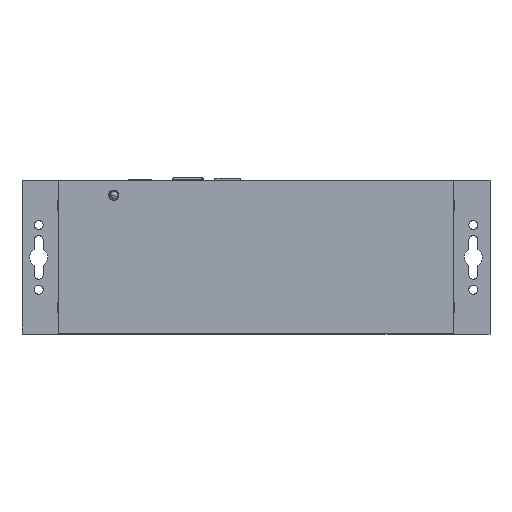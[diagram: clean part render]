
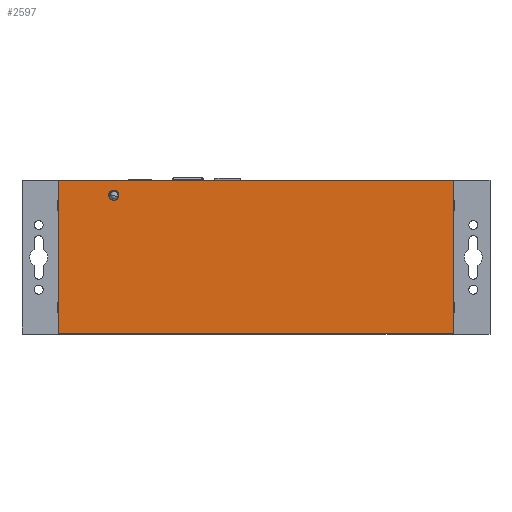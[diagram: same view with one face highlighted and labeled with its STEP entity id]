
A CAD part, top view. The second image highlights one B-rep face of the part: STEP entity #2597.
In plain terms, the highlighted planar face has unit normal (0, 0, 1).
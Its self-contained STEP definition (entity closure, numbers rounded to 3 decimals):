
#800 = VERTEX_POINT('',#801);
#801 = CARTESIAN_POINT('',(13.95,0.,22.9));
#807 = EDGE_CURVE('',#800,#808,#810,.T.);
#808 = VERTEX_POINT('',#809);
#809 = CARTESIAN_POINT('',(167.05,0.,22.9));
#810 = LINE('',#811,#812);
#811 = CARTESIAN_POINT('',(0.,0.,22.9));
#812 = VECTOR('',#813,1.);
#813 = DIRECTION('',(1.,0.,0.));
#2306 = VERTEX_POINT('',#2307);
#2307 = CARTESIAN_POINT('',(167.05,59.4,22.9));
#2313 = EDGE_CURVE('',#808,#2306,#2314,.T.);
#2314 = LINE('',#2315,#2316);
#2315 = CARTESIAN_POINT('',(167.05,0.,22.9));
#2316 = VECTOR('',#2317,1.);
#2317 = DIRECTION('',(0.,1.,0.));
#2597 = ADVANCED_FACE('',(#2598,#2616),#2627,.T.);
#2598 = FACE_BOUND('',#2599,.T.);
#2599 = EDGE_LOOP('',(#2600,#2608,#2614,#2615));
#2600 = ORIENTED_EDGE('',*,*,#2601,.F.);
#2601 = EDGE_CURVE('',#2602,#2306,#2604,.T.);
#2602 = VERTEX_POINT('',#2603);
#2603 = CARTESIAN_POINT('',(13.95,59.4,22.9));
#2604 = LINE('',#2605,#2606);
#2605 = CARTESIAN_POINT('',(0.,59.4,22.9));
#2606 = VECTOR('',#2607,1.);
#2607 = DIRECTION('',(1.,0.,0.));
#2608 = ORIENTED_EDGE('',*,*,#2609,.F.);
#2609 = EDGE_CURVE('',#800,#2602,#2610,.T.);
#2610 = LINE('',#2611,#2612);
#2611 = CARTESIAN_POINT('',(13.95,0.,22.9));
#2612 = VECTOR('',#2613,1.);
#2613 = DIRECTION('',(0.,1.,0.));
#2614 = ORIENTED_EDGE('',*,*,#807,.T.);
#2615 = ORIENTED_EDGE('',*,*,#2313,.T.);
#2616 = FACE_BOUND('',#2617,.T.);
#2617 = EDGE_LOOP('',(#2618));
#2618 = ORIENTED_EDGE('',*,*,#2619,.F.);
#2619 = EDGE_CURVE('',#2620,#2620,#2622,.T.);
#2620 = VERTEX_POINT('',#2621);
#2621 = CARTESIAN_POINT('',(37.5,53.65,22.9));
#2622 = CIRCLE('',#2623,2.);
#2623 = AXIS2_PLACEMENT_3D('',#2624,#2625,#2626);
#2624 = CARTESIAN_POINT('',(35.5,53.65,22.9));
#2625 = DIRECTION('',(0.,0.,1.));
#2626 = DIRECTION('',(1.,0.,0.));
#2627 = PLANE('',#2628);
#2628 = AXIS2_PLACEMENT_3D('',#2629,#2630,#2631);
#2629 = CARTESIAN_POINT('',(0.,0.,22.9));
#2630 = DIRECTION('',(0.,0.,1.));
#2631 = DIRECTION('',(1.,0.,0.));
